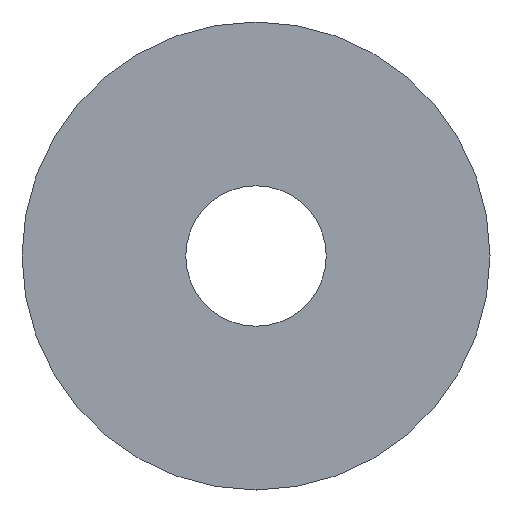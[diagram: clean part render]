
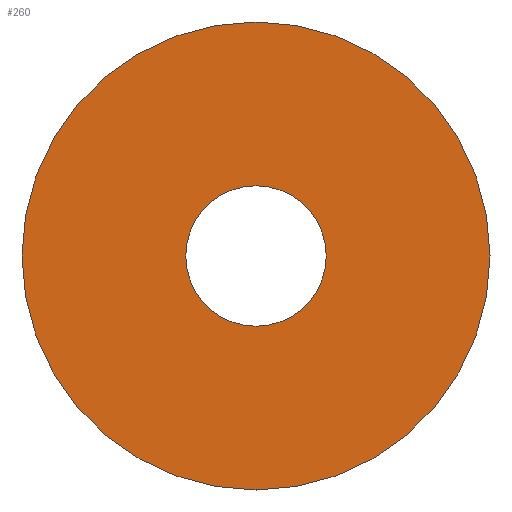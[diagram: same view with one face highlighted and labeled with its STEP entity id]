
A CAD part, front view. The second image highlights one B-rep face of the part: STEP entity #260.
In plain terms, the highlighted planar face has unit normal (0, -1, 0).
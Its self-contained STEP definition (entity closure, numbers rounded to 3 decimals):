
#5 = CIRCLE ( 'NONE', #250, 1.5 ) ;
#7 = VERTEX_POINT ( 'NONE', #281 ) ;
#9 = CARTESIAN_POINT ( 'NONE',  ( 0., 0., 0. ) ) ;
#12 = ORIENTED_EDGE ( 'NONE', *, *, #181, .T. ) ;
#26 = DIRECTION ( 'NONE',  ( -1., 0., 0. ) ) ;
#31 = CARTESIAN_POINT ( 'NONE',  ( 0.45, 0., 0. ) ) ;
#70 = EDGE_LOOP ( 'NONE', ( #145, #176 ) ) ;
#74 = PLANE ( 'NONE',  #157 ) ;
#76 = DIRECTION ( 'NONE',  ( -1., 0., 0. ) ) ;
#94 = CIRCLE ( 'NONE', #111, 1.5 ) ;
#96 = CARTESIAN_POINT ( 'NONE',  ( 0., 0., 0. ) ) ;
#111 = AXIS2_PLACEMENT_3D ( 'NONE', #9, #264, #168 ) ;
#118 = AXIS2_PLACEMENT_3D ( 'NONE', #96, #293, #76 ) ;
#122 = DIRECTION ( 'NONE',  ( 0., 1., 0. ) ) ;
#129 = CARTESIAN_POINT ( 'NONE',  ( -1.5, 0., 0. ) ) ;
#133 = EDGE_CURVE ( 'NONE', #259, #7, #5, .T. ) ;
#145 = ORIENTED_EDGE ( 'NONE', *, *, #133, .F. ) ;
#152 = CARTESIAN_POINT ( 'NONE',  ( 0., 0., 0. ) ) ;
#153 = CARTESIAN_POINT ( 'NONE',  ( -0.45, 0., 0. ) ) ;
#157 = AXIS2_PLACEMENT_3D ( 'NONE', #265, #122, #219 ) ;
#165 = CARTESIAN_POINT ( 'NONE',  ( 0., 0., 0. ) ) ;
#168 = DIRECTION ( 'NONE',  ( -1., 0., 0. ) ) ;
#169 = DIRECTION ( 'NONE',  ( 0., 1., 0. ) ) ;
#171 = EDGE_LOOP ( 'NONE', ( #247, #12 ) ) ;
#175 = EDGE_CURVE ( 'NONE', #7, #259, #94, .T. ) ;
#176 = ORIENTED_EDGE ( 'NONE', *, *, #175, .F. ) ;
#181 = EDGE_CURVE ( 'NONE', #241, #249, #213, .T. ) ;
#213 = CIRCLE ( 'NONE', #118, 0.45 ) ;
#219 = DIRECTION ( 'NONE',  ( -1., 0., 0. ) ) ;
#221 = DIRECTION ( 'NONE',  ( -1., 0., 0. ) ) ;
#223 = EDGE_CURVE ( 'NONE', #249, #241, #255, .T. ) ;
#241 = VERTEX_POINT ( 'NONE', #31 ) ;
#247 = ORIENTED_EDGE ( 'NONE', *, *, #223, .T. ) ;
#249 = VERTEX_POINT ( 'NONE', #153 ) ;
#250 = AXIS2_PLACEMENT_3D ( 'NONE', #165, #257, #26 ) ;
#255 = CIRCLE ( 'NONE', #290, 0.45 ) ;
#257 = DIRECTION ( 'NONE',  ( 0., 1., 0. ) ) ;
#259 = VERTEX_POINT ( 'NONE', #129 ) ;
#260 = ADVANCED_FACE ( 'NONE', ( #284, #274 ), #74, .F. ) ;
#264 = DIRECTION ( 'NONE',  ( 0., 1., 0. ) ) ;
#265 = CARTESIAN_POINT ( 'NONE',  ( 1.5, 0., 0. ) ) ;
#274 = FACE_BOUND ( 'NONE', #171, .T. ) ;
#281 = CARTESIAN_POINT ( 'NONE',  ( 1.5, 0., 0. ) ) ;
#284 = FACE_OUTER_BOUND ( 'NONE', #70, .T. ) ;
#290 = AXIS2_PLACEMENT_3D ( 'NONE', #152, #169, #221 ) ;
#293 = DIRECTION ( 'NONE',  ( 0., 1., 0. ) ) ;
